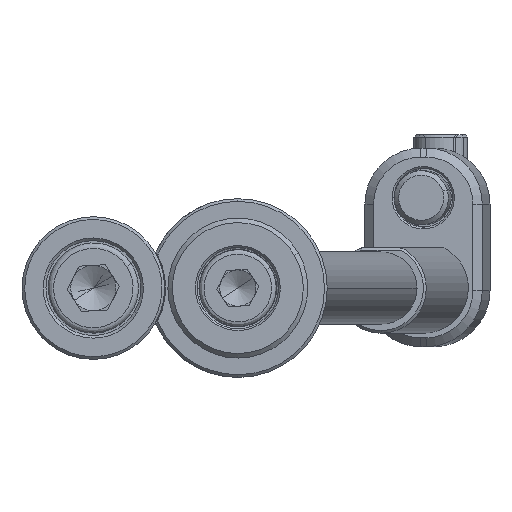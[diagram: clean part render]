
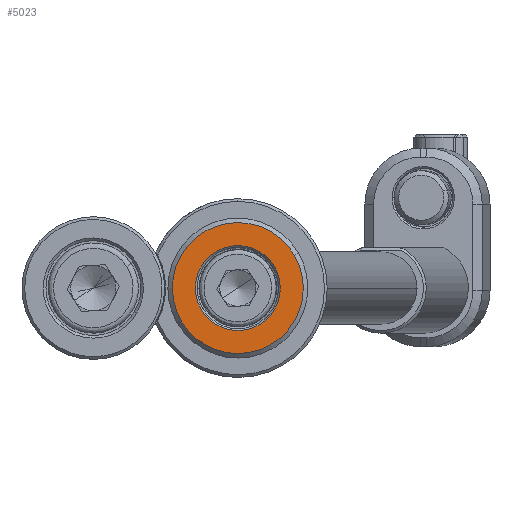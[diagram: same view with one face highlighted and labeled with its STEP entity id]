
A CAD part, front view. The second image highlights one B-rep face of the part: STEP entity #5023.
In plain terms, the highlighted planar face has unit normal (0, -1, 0).
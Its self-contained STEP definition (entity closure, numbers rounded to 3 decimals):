
#176 = CIRCLE ( 'NONE', #11172, 7.25 ) ;
#234 = PLANE ( 'NONE',  #13928 ) ;
#299 = FACE_BOUND ( 'NONE', #14082, .T. ) ;
#827 = ORIENTED_EDGE ( 'NONE', *, *, #10038, .T. ) ;
#1562 = DIRECTION ( 'NONE',  ( -0.865, 0., -0.503 ) ) ;
#2370 = CARTESIAN_POINT ( 'NONE',  ( 4.063, -4., 2.362 ) ) ;
#2853 = VERTEX_POINT ( 'NONE', #12887 ) ;
#2963 = AXIS2_PLACEMENT_3D ( 'NONE', #13378, #9091, #11218 ) ;
#3636 = CIRCLE ( 'NONE', #2963, 4.7 ) ;
#3767 = EDGE_CURVE ( 'NONE', #2853, #13495, #8333, .T. ) ;
#4171 = CARTESIAN_POINT ( 'NONE',  ( 0., -4., 0. ) ) ;
#4172 = CARTESIAN_POINT ( 'NONE',  ( 6.268, -4., 3.643 ) ) ;
#4311 = CARTESIAN_POINT ( 'NONE',  ( 0., -4., 0. ) ) ;
#4654 = DIRECTION ( 'NONE',  ( 0., 1., 0. ) ) ;
#5023 = ADVANCED_FACE ( 'NONE', ( #299, #6954 ), #234, .F. ) ;
#5154 = ORIENTED_EDGE ( 'NONE', *, *, #11652, .T. ) ;
#5613 = DIRECTION ( 'NONE',  ( -0.865, 0., -0.503 ) ) ;
#6255 = ORIENTED_EDGE ( 'NONE', *, *, #3767, .T. ) ;
#6413 = DIRECTION ( 'NONE',  ( -0.865, 0., -0.503 ) ) ;
#6954 = FACE_OUTER_BOUND ( 'NONE', #8788, .T. ) ;
#8245 = CIRCLE ( 'NONE', #9402, 4.7 ) ;
#8333 = CIRCLE ( 'NONE', #11999, 7.25 ) ;
#8458 = DIRECTION ( 'NONE',  ( 0., -1., 0. ) ) ;
#8526 = DIRECTION ( 'NONE',  ( 0., -1., 0. ) ) ;
#8788 = EDGE_LOOP ( 'NONE', ( #6255, #5154 ) ) ;
#8801 = CARTESIAN_POINT ( 'NONE',  ( 0., -4., 0. ) ) ;
#8947 = CARTESIAN_POINT ( 'NONE',  ( -4.063, -4., -2.362 ) ) ;
#8993 = VERTEX_POINT ( 'NONE', #8947 ) ;
#9091 = DIRECTION ( 'NONE',  ( 0., 1., 0. ) ) ;
#9402 = AXIS2_PLACEMENT_3D ( 'NONE', #8801, #13440, #5613 ) ;
#9662 = DIRECTION ( 'NONE',  ( -0.865, 0., -0.503 ) ) ;
#9700 = ORIENTED_EDGE ( 'NONE', *, *, #11830, .T. ) ;
#9813 = VERTEX_POINT ( 'NONE', #2370 ) ;
#10038 = EDGE_CURVE ( 'NONE', #8993, #9813, #3636, .T. ) ;
#11172 = AXIS2_PLACEMENT_3D ( 'NONE', #4311, #8458, #9662 ) ;
#11218 = DIRECTION ( 'NONE',  ( -0.865, 0., -0.503 ) ) ;
#11652 = EDGE_CURVE ( 'NONE', #13495, #2853, #176, .T. ) ;
#11830 = EDGE_CURVE ( 'NONE', #9813, #8993, #8245, .T. ) ;
#11999 = AXIS2_PLACEMENT_3D ( 'NONE', #4171, #8526, #6413 ) ;
#12887 = CARTESIAN_POINT ( 'NONE',  ( -6.268, -4., -3.643 ) ) ;
#13378 = CARTESIAN_POINT ( 'NONE',  ( 0., -4., 0. ) ) ;
#13440 = DIRECTION ( 'NONE',  ( 0., 1., 0. ) ) ;
#13495 = VERTEX_POINT ( 'NONE', #4172 ) ;
#13517 = CARTESIAN_POINT ( 'NONE',  ( 2.261, -4., -3.891 ) ) ;
#13928 = AXIS2_PLACEMENT_3D ( 'NONE', #13517, #4654, #1562 ) ;
#14082 = EDGE_LOOP ( 'NONE', ( #9700, #827 ) ) ;
